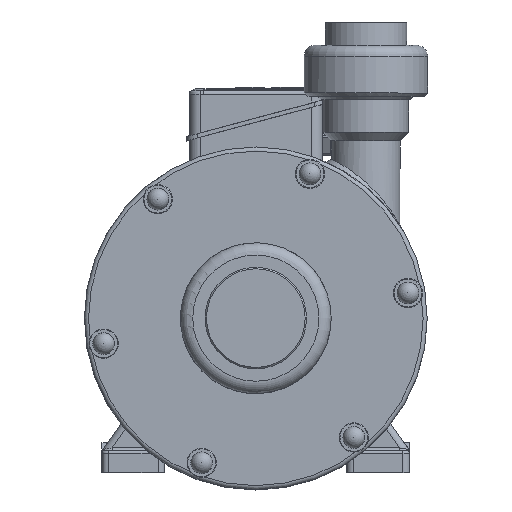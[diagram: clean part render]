
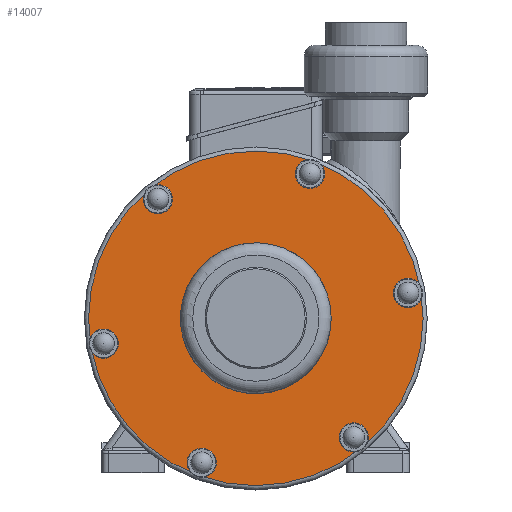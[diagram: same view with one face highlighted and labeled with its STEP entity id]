
A CAD part, top view. The second image highlights one B-rep face of the part: STEP entity #14007.
In plain terms, the highlighted planar face has unit normal (0, 0, 1).
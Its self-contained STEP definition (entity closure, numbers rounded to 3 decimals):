
#2708=FACE_BOUND('',#3539,.T.);
#2744=FACE_OUTER_BOUND('',#3538,.T.);
#3538=EDGE_LOOP('',(#8649));
#3539=EDGE_LOOP('',(#8650,#8651));
#4365=CIRCLE('',#14843,122.);
#4366=CIRCLE('',#14844,47.75);
#4367=CIRCLE('',#14845,47.75);
#5104=VERTEX_POINT('',#20140);
#5105=VERTEX_POINT('',#20142);
#5106=VERTEX_POINT('',#20143);
#6513=EDGE_CURVE('',#5104,#5104,#4365,.T.);
#6514=EDGE_CURVE('',#5105,#5106,#4366,.T.);
#6515=EDGE_CURVE('',#5106,#5105,#4367,.T.);
#8649=ORIENTED_EDGE('',*,*,#6513,.F.);
#8650=ORIENTED_EDGE('',*,*,#6514,.T.);
#8651=ORIENTED_EDGE('',*,*,#6515,.T.);
#12921=PLANE('',#14842);
#14007=ADVANCED_FACE('',(#2744,#2708),#12921,.T.);
#14842=AXIS2_PLACEMENT_3D('',#20139,#16361,#16362);
#14843=AXIS2_PLACEMENT_3D('',#20141,#16363,#16364);
#14844=AXIS2_PLACEMENT_3D('',#20144,#16365,#16366);
#14845=AXIS2_PLACEMENT_3D('',#20145,#16367,#16368);
#16361=DIRECTION('center_axis',(0.,0.,1.));
#16362=DIRECTION('ref_axis',(1.,-0.001,0.));
#16363=DIRECTION('center_axis',(0.,0.,-1.));
#16364=DIRECTION('ref_axis',(1.,-0.001,0.));
#16365=DIRECTION('center_axis',(0.,0.,-1.));
#16366=DIRECTION('ref_axis',(0.001,1.,0.));
#16367=DIRECTION('center_axis',(0.,0.,-1.));
#16368=DIRECTION('ref_axis',(0.001,1.,0.));
#20139=CARTESIAN_POINT('Origin',(0.,0.,
319.25));
#20140=CARTESIAN_POINT('',(-122.,0.168,319.25));
#20141=CARTESIAN_POINT('Origin',(0.,0.,
319.25));
#20142=CARTESIAN_POINT('',(0.066,47.75,319.25));
#20143=CARTESIAN_POINT('',(-0.066,-47.75,319.25));
#20144=CARTESIAN_POINT('Origin',(0.,0.,
319.25));
#20145=CARTESIAN_POINT('Origin',(0.,0.,
319.25));
